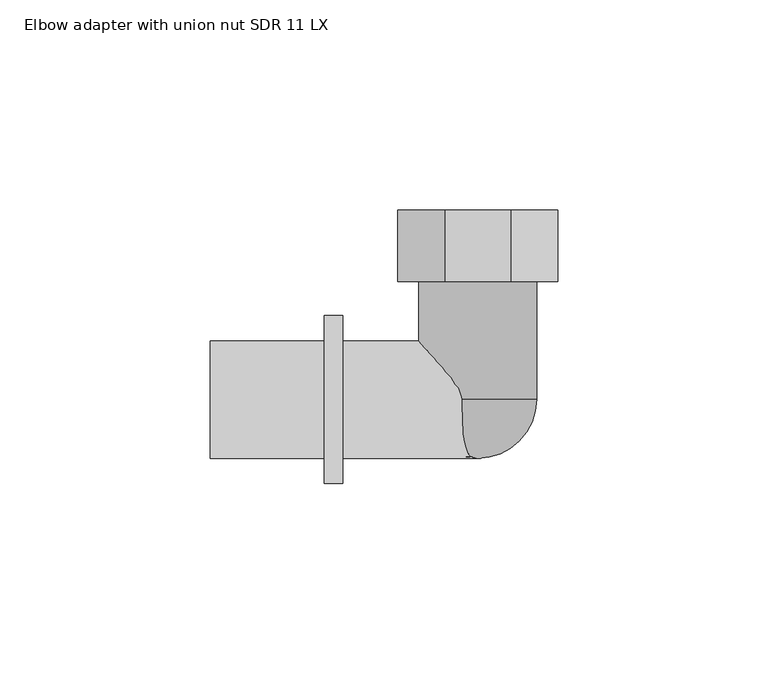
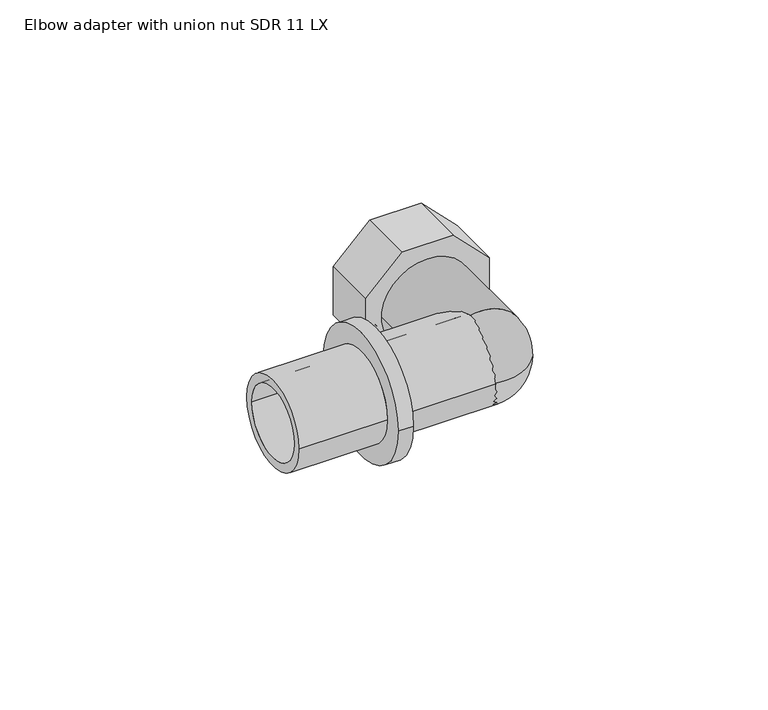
"""IFC4 building model written with IfcOpenShell, lengths in millimetres: pipe fitting geometry, Elbow adapter with union nut SDR11 LX  : Elbow adapter with union nut SDR 11 LX."""

from ifc_helpers import new_model, si_unit, point, frame, origin, origin_2d, place, context, project, spatial, polyline, circle_curve, ellipse_curve, trimmed, segment, composite_curve, outline, extrude, source, transform, mapped, element, save
from ifc_brep_helpers import plane_surface, cylinder_surface, revolved_surface, advanced_brep


def elbow_adapter_with_union_nut_sdr_11_lx_9001e0a9(model_context):
    return source(origin(), model_context, "Body", "SolidModel", [
        extrude(outline(polyline([(-7.8700577, -19.0), (-19.0, -7.8700577), (-19.0, 7.8700577), (-7.8700577, 19.0), (7.8700577, 19.0), (19.0, 7.8700577), (19.0, -7.8700577), (7.8700577, -19.0), (-7.8700577, -19.0)]), holes=[composite_curve([segment(trimmed(circle_curve(origin_2d(), 14.0), [point((-14.0, 0.0))], [point((14.0, 0.0))], True, "CARTESIAN"), True, "CONTINUOUS"), segment(trimmed(circle_curve(origin_2d(), 14.0), [point((14.0, 0.0))], [point((-14.0, 0.0))], True, "CARTESIAN"), True, "CONTINUOUS")], self_intersect=False)]), frame((0.0, 28.0, 0.0), z_axis=(0.0, 1.0, 0.0), x_axis=(0.0, 0.0, 1.0)), (0.0, 0.0, 1.0), 17.0),
        advanced_brep(
        [(-14.0, 0.0, 0.0), (14.0, 0.0, 0.0), (0.0, -13.95, 0.0), (0.0, 0.0, 0.0)],
        [
            (0, 1, circle_curve(frame((0.0, 0.0, 0.0), z_axis=(0.0, -1.0, 0.0), x_axis=(1.0, 0.0, 0.0)), 14.0)),
            (1, 2, ellipse_curve(frame((0.0, 0.0, 0.0), z_axis=(0.0, 0.0, -1.0), x_axis=(-1.0, 0.0, 0.0)), 14.0, 13.95)),
            (2, 0, ellipse_curve(frame((0.0, 0.0, 0.0), z_axis=(0.0, 0.0, -1.0), x_axis=(1.0, 0.0, 0.0)), 14.0, 13.95)),
            (1, 0, circle_curve(frame((0.0, 0.0, 0.0), z_axis=(0.0, -1.0, 0.0), x_axis=(1.0, 0.0, 0.0)), 14.0)),
            (3, 1),
            (0, 3),
        ],
        [
            revolved_surface(trimmed(ellipse_curve(frame((0.0, 0.0, 0.0), z_axis=(0.0, 0.0, 1.0), x_axis=(-1.0, 0.0, 0.0)), 14.0, 13.95), [point((0.0, -13.95, 0.0))], [point((14.0, 0.0, 0.0))], True, "CARTESIAN"), (0.0, 0.0, 0.0), (0.0, 1.0, 0.0)),
            plane_surface(frame((0.0, 0.0, 0.0), z_axis=(0.0, 1.0, 0.0), x_axis=(1.0, 0.0, 0.0))),
        ],
        [
            (0, [[1, 2, 3]]),
            (0, [[4, -3, -2]]),
            (1, [[5, -1, 6]]),
            (1, [[-6, -4, -5]]),
        ],
    ),
        extrude(outline(composite_curve([segment(trimmed(circle_curve(origin_2d(), 14.0), [point((0.0, -14.0))], [point((0.0, 14.0))], False, "CARTESIAN"), True, "CONTINUOUS"), segment(trimmed(circle_curve(origin_2d(), 14.0), [point((0.0, 14.0))], [point((0.0, -14.0))], False, "CARTESIAN"), True, "CONTINUOUS")], self_intersect=False), holes=[composite_curve([segment(trimmed(circle_curve(origin_2d(), 10.0), [point((0.0, -10.0))], [point((0.0, 10.0))], True, "CARTESIAN"), True, "CONTINUOUS"), segment(trimmed(circle_curve(origin_2d(), 10.0), [point((0.0, 10.0))], [point((0.0, -10.0))], True, "CARTESIAN"), True, "CONTINUOUS")], self_intersect=False)]), frame((0.0, 0.0, 0.0), z_axis=(0.0, 1.0, 0.0), x_axis=(0.0, 0.0, 1.0)), (0.0, 0.0, 1.0), 30.7),
        advanced_brep(
        [(-32.0, 20.0, 0.0), (-32.0, -20.0, 0.0), (-36.5, -20.0, 0.0), (-36.5, 20.0, 0.0), (-36.5, 13.95, 0.0), (-36.5, -13.95, 0.0), (-63.5, -13.95, 0.0), (-63.5, 13.95, 0.0), (-63.5, 11.2, 0.0), (-63.5, -11.2, 0.0), (-3.840761, -11.2, 0.0), (-3.840761, 11.2, 0.0), (-32.0, -13.95, 0.0), (-32.0, 13.95, 0.0), (0.0, 13.95, 0.0), (0.0, -13.95, 0.0), (0.0, -11.2, 0.0), (0.0, 11.2, 0.0)],
        [
            (0, 1, circle_curve(frame((-32.0, 0.0, 0.0), z_axis=(-1.0, 0.0, 0.0), x_axis=(0.0, -1.0, 0.0)), 20.0)),
            (1, 2),
            (2, 3, circle_curve(frame((-36.5, 0.0, 0.0), z_axis=(1.0, 0.0, 0.0), x_axis=(0.0, -1.0, 0.0)), 20.0)),
            (3, 0),
            (4, 5, circle_curve(frame((-36.5, 0.0, 0.0), z_axis=(-1.0, 0.0, 0.0), x_axis=(0.0, -1.0, 0.0)), 13.95)),
            (5, 6),
            (6, 7, circle_curve(frame((-63.5, 0.0, 0.0), z_axis=(1.0, 0.0, 0.0), x_axis=(0.0, -1.0, 0.0)), 13.95)),
            (7, 4),
            (8, 9, circle_curve(frame((-63.5, 0.0, 0.0), z_axis=(-1.0, 0.0, 0.0), x_axis=(0.0, -1.0, 0.0)), 11.2)),
            (9, 10),
            (10, 11, circle_curve(frame((-3.840761, 0.0, 0.0), z_axis=(1.0, 0.0, 0.0), x_axis=(0.0, -1.0, 0.0)), 11.2)),
            (11, 8),
            (0, 1, circle_curve(frame((-32.0, 0.0, 0.0), z_axis=(1.0, 0.0, 0.0), x_axis=(0.0, 1.0, 0.0)), 20.0)),
            (12, 13, circle_curve(frame((-32.0, 0.0, 0.0), z_axis=(-1.0, 0.0, 0.0), x_axis=(0.0, 1.0, 0.0)), 13.95)),
            (13, 12, circle_curve(frame((-32.0, 0.0, 0.0), z_axis=(-1.0, 0.0, 0.0), x_axis=(0.0, -1.0, 0.0)), 13.95)),
            (3, 2, circle_curve(frame((-36.5, 0.0, 0.0), z_axis=(1.0, 0.0, 0.0), x_axis=(0.0, 1.0, 0.0)), 20.0)),
            (4, 5, circle_curve(frame((-36.5, 0.0, 0.0), z_axis=(1.0, 0.0, 0.0), x_axis=(0.0, 1.0, 0.0)), 13.95)),
            (7, 6, circle_curve(frame((-63.5, 0.0, 0.0), z_axis=(1.0, 0.0, 0.0), x_axis=(0.0, 1.0, 0.0)), 13.95)),
            (8, 9, circle_curve(frame((-63.5, 0.0, 0.0), z_axis=(1.0, 0.0, 0.0), x_axis=(0.0, 1.0, 0.0)), 11.2)),
            (11, 10, circle_curve(frame((-3.840761, 0.0, 0.0), z_axis=(1.0, 0.0, 0.0), x_axis=(0.0, 1.0, 0.0)), 11.2)),
            (14, 15, circle_curve(frame((0.0, 0.0, 0.0), z_axis=(-1.0, 0.0, 0.0), x_axis=(0.0, -1.0, 0.0)), 13.95)),
            (15, 12),
            (13, 14),
            (10, 16),
            (16, 17, circle_curve(frame((0.0, 0.0, 0.0), z_axis=(1.0, 0.0, 0.0), x_axis=(0.0, -1.0, 0.0)), 11.2)),
            (17, 11),
            (15, 14, circle_curve(frame((0.0, 0.0, 0.0), z_axis=(-1.0, 0.0, 0.0), x_axis=(0.0, 1.0, 0.0)), 13.95)),
            (16, 17, circle_curve(frame((0.0, 0.0, 0.0), z_axis=(-1.0, 0.0, 0.0), x_axis=(0.0, 1.0, 0.0)), 11.2)),
        ],
        [
            cylinder_surface(frame((0.0, 0.0, 0.0), z_axis=(1.0, 0.0, 0.0), x_axis=(0.0, -1.0, 0.0)), 20.0),
            cylinder_surface(frame((0.0, 0.0, 0.0), z_axis=(1.0, 0.0, 0.0), x_axis=(0.0, -1.0, 0.0)), 13.95),
            revolved_surface(polyline([(-3.840761, -11.2, 0.0), (-63.5, -11.2, 0.0)]), (0.0, 0.0, 0.0), (1.0, 0.0, 0.0)),
            plane_surface(frame((-32.0, 0.0, 0.0), z_axis=(1.0, 0.0, 0.0), x_axis=(0.0, 1.0, 0.0))),
            cylinder_surface(frame((0.0, 0.0, 0.0), z_axis=(1.0, 0.0, 0.0), x_axis=(0.0, 1.0, 0.0)), 20.0),
            plane_surface(frame((-36.5, 0.0, 0.0), z_axis=(-1.0, 0.0, 0.0), x_axis=(0.0, 1.0, 0.0))),
            cylinder_surface(frame((0.0, 0.0, 0.0), z_axis=(1.0, 0.0, 0.0), x_axis=(0.0, 1.0, 0.0)), 13.95),
            plane_surface(frame((-63.5, 0.0, 0.0), z_axis=(-1.0, 0.0, 0.0), x_axis=(0.0, 1.0, 0.0))),
            revolved_surface(polyline([(-3.840761, 11.2, 0.0), (-63.5, 11.2, 0.0)]), (0.0, 0.0, 0.0), (1.0, 0.0, 0.0)),
            revolved_surface(polyline([(0.0, -11.2, 0.0), (-3.840761, -11.2, 0.0)]), (0.0, 0.0, 0.0), (1.0, 0.0, 0.0)),
            plane_surface(frame((0.0, 0.0, 0.0), z_axis=(1.0, 0.0, 0.0), x_axis=(0.0, 1.0, 0.0))),
            revolved_surface(polyline([(0.0, 11.2, 0.0), (-3.840761, 11.2, 0.0)]), (0.0, 0.0, 0.0), (1.0, 0.0, 0.0)),
        ],
        [
            (0, [[1, 2, 3, 4]]),
            (1, [[5, 6, 7, 8]]),
            (2, [[9, 10, 11, 12]]),
            (3, [[13, -1], [14, 15]]),
            (4, [[-13, -4, 16, -2]]),
            (5, [[-16, -3], [17, -5]]),
            (6, [[-17, -8, 18, -6]]),
            (7, [[-18, -7], [19, -9]]),
            (8, [[-19, -12, 20, -10]]),
            (1, [[21, 22, -15, 23]]),
            (9, [[-11, 24, 25, 26]]),
            (6, [[27, -23, -14, -22]]),
            (10, [[-27, -21], [28, -25]]),
            (11, [[-20, -26, -28, -24]]),
        ],
    ),
    ])


if __name__ == "__main__":
    model = new_model("IFC4")
    model_context = context("Model", 3, world=origin())
    ifc_project = project(units=[si_unit("LENGTHUNIT", "METRE", prefix="MILLI")], contexts=[model_context])
    site = spatial("IfcSite", under=ifc_project)
    building = spatial("IfcBuilding", under=site)
    placement = place(None, origin())
    elbow_adapter_with_union_nut_sdr_11_lx_shape = elbow_adapter_with_union_nut_sdr_11_lx_9001e0a9(model_context)
    element("IfcPipeFitting", 1, ObjectType="Elbow adapter with union nut SDR11 LX  : Elbow adapter with union nut SDR 11 LX", at=placement, inside=building, context=model_context, shape_type="MappedRepresentation", body=[
        mapped(elbow_adapter_with_union_nut_sdr_11_lx_shape, transform((0.0, 0.0, 0.0), x_axis=(1.0, 0.0, 0.0), y_axis=(0.0, 1.0, 0.0), z_axis=(0.0, 0.0, 1.0))),
    ])
    save(model, "model.ifc")
